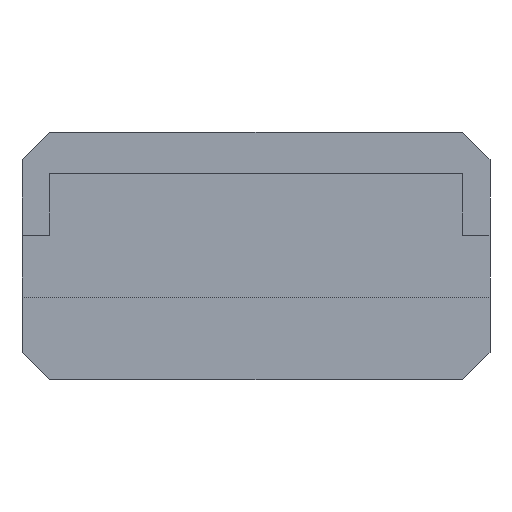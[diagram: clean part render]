
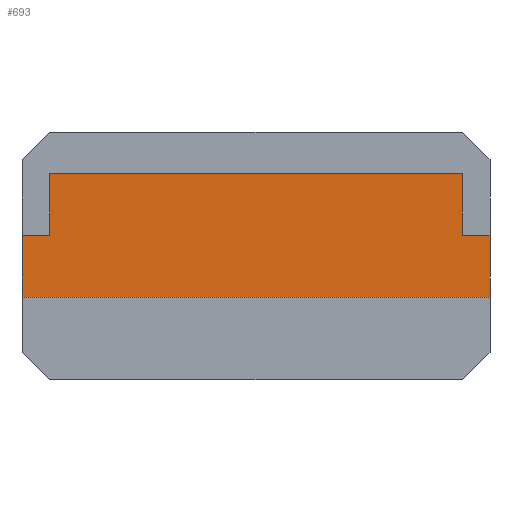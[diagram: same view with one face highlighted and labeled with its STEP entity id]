
A CAD part, left-side view. The second image highlights one B-rep face of the part: STEP entity #693.
In plain terms, the highlighted planar face has unit normal (-1, 0, 0).
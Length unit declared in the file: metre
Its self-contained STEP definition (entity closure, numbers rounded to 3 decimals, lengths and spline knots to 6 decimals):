
#100=ORIENTED_EDGE('',*,*,#264,.F.);
#101=ORIENTED_EDGE('',*,*,#273,.F.);
#102=ORIENTED_EDGE('',*,*,#274,.F.);
#103=ORIENTED_EDGE('',*,*,#275,.T.);
#104=ORIENTED_EDGE('',*,*,#276,.T.);
#105=ORIENTED_EDGE('',*,*,#277,.F.);
#106=ORIENTED_EDGE('',*,*,#267,.T.);
#107=ORIENTED_EDGE('',*,*,#272,.F.);
#264=EDGE_CURVE('',#349,#350,#411,.T.);
#267=EDGE_CURVE('',#352,#351,#414,.T.);
#272=EDGE_CURVE('',#350,#351,#416,.T.);
#273=EDGE_CURVE('',#313,#349,#417,.T.);
#274=EDGE_CURVE('',#334,#313,#418,.T.);
#275=EDGE_CURVE('',#334,#309,#419,.T.);
#276=EDGE_CURVE('',#309,#347,#420,.T.);
#277=EDGE_CURVE('',#352,#347,#421,.T.);
#309=VERTEX_POINT('',#984);
#313=VERTEX_POINT('',#993);
#334=VERTEX_POINT('',#1040);
#347=VERTEX_POINT('',#1074);
#349=VERTEX_POINT('',#1080);
#350=VERTEX_POINT('',#1082);
#351=VERTEX_POINT('',#1086);
#352=VERTEX_POINT('',#1088);
#411=LINE('',#1081,#491);
#414=LINE('',#1087,#494);
#416=LINE('',#1097,#496);
#417=LINE('',#1099,#497);
#418=LINE('',#1100,#498);
#419=LINE('',#1101,#499);
#420=LINE('',#1102,#500);
#421=LINE('',#1103,#501);
#491=VECTOR('',#865,1.);
#494=VECTOR('',#870,1.);
#496=VECTOR('',#880,1.);
#497=VECTOR('',#883,1.);
#498=VECTOR('',#884,1.);
#499=VECTOR('',#885,1.);
#500=VECTOR('',#886,1.);
#501=VECTOR('',#887,1.);
#547=EDGE_LOOP('',(#100,#101,#102,#103,#104,#105,#106,#107));
#607=FACE_BOUND('',#547,.T.);
#658=PLANE('',#755);
#693=ADVANCED_FACE('',(#607),#658,.F.);
#755=AXIS2_PLACEMENT_3D('',#1098,#881,#882);
#865=DIRECTION('',(0.,0.,1.));
#870=DIRECTION('',(0.,0.,1.));
#880=DIRECTION('',(0.,-1.,0.));
#881=DIRECTION('',(1.,0.,0.));
#882=DIRECTION('',(0.,1.,0.));
#883=DIRECTION('',(0.,-1.,0.));
#884=DIRECTION('',(0.,0.,1.));
#885=DIRECTION('',(0.,-1.,0.));
#886=DIRECTION('',(0.,0.,1.));
#887=DIRECTION('',(0.,-1.,0.));
#984=CARTESIAN_POINT('',(0.145,-0.196,0.03551));
#993=CARTESIAN_POINT('',(0.145,-0.162,0.04001));
#1040=CARTESIAN_POINT('',(0.145,-0.162,0.03551));
#1074=CARTESIAN_POINT('',(0.145,-0.196,0.04001));
#1080=CARTESIAN_POINT('',(0.145,-0.164,0.04001));
#1081=CARTESIAN_POINT('',(0.145,-0.164,0.04226));
#1082=CARTESIAN_POINT('',(0.145,-0.164,0.04451));
#1086=CARTESIAN_POINT('',(0.145,-0.194,0.04451));
#1087=CARTESIAN_POINT('',(0.145,-0.194,0.04226));
#1088=CARTESIAN_POINT('',(0.145,-0.194,0.04001));
#1097=CARTESIAN_POINT('',(0.145,-0.179,0.04451));
#1098=CARTESIAN_POINT('',(0.145,-0.099,0.04001));
#1099=CARTESIAN_POINT('',(0.145,-0.099,0.04001));
#1100=CARTESIAN_POINT('',(0.145,-0.162,-0.438957));
#1101=CARTESIAN_POINT('',(0.145,-0.099,0.03551));
#1102=CARTESIAN_POINT('',(0.145,-0.196,-0.438957));
#1103=CARTESIAN_POINT('',(0.145,-0.099,0.04001));
